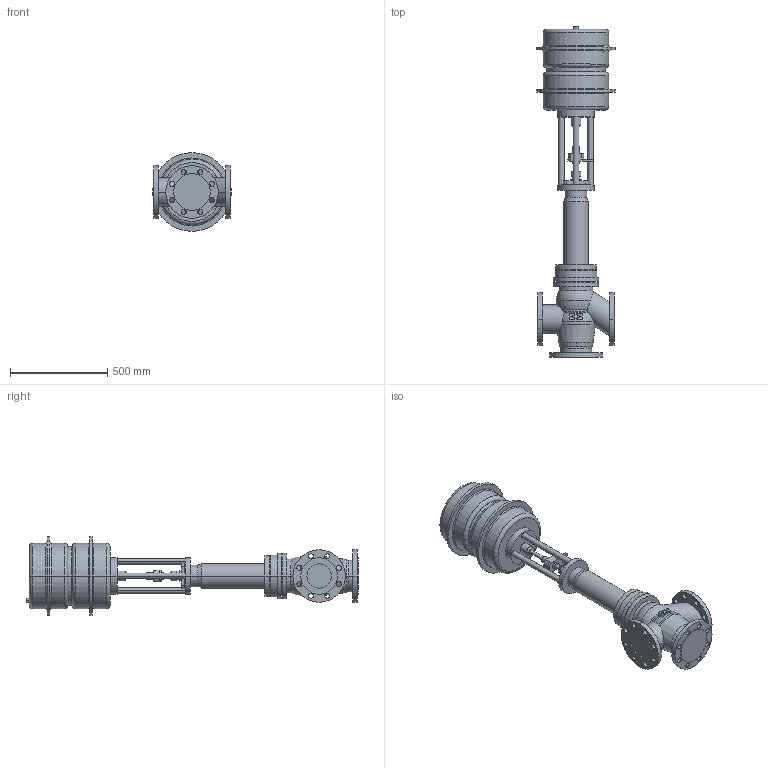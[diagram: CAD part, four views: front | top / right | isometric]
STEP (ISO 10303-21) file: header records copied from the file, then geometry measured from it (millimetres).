
FILE_DESCRIPTION(('OneSpaceDesigner STEP Export'),'2;1');
FILE_NAME('c000002428.stp','2006-09-21T 9:37:26',(''),(''),'OneSpace Designer STEP processor for AP214 (Solid Model)','OneSpace Designer 13.20A 18-Aug-2005 (C) CoCreate Software GmbH','');
FILE_SCHEMA(('AUTOMOTIVE_DESIGN { 1 0 10303 214 1 1 1 1 }'));
Length unit declared in the file: millimetre
Products named in the file (2): 1; 2
Bounding box: 405 x 1708.5 x 405 mm (x, y, z)
Volume: 66582950.8 mm3; surface area: 2061777.2 mm2
Topology: 2 solids, 2 shells, 284 faces, 693 edges, 449 vertices
Faces by surface type: cylinder 150, plane 94, torus 26, sphere 8, cone 6
Entity records: 7533 total; most frequent: CARTESIAN_POINT 1470, ORIENTED_EDGE 1370, DIRECTION 1092, EDGE_CURVE 685, VERTEX_POINT 449, AXIS2_PLACEMENT_3D 408, EDGE_LOOP 376, FACE_OUTER_BOUND 284
